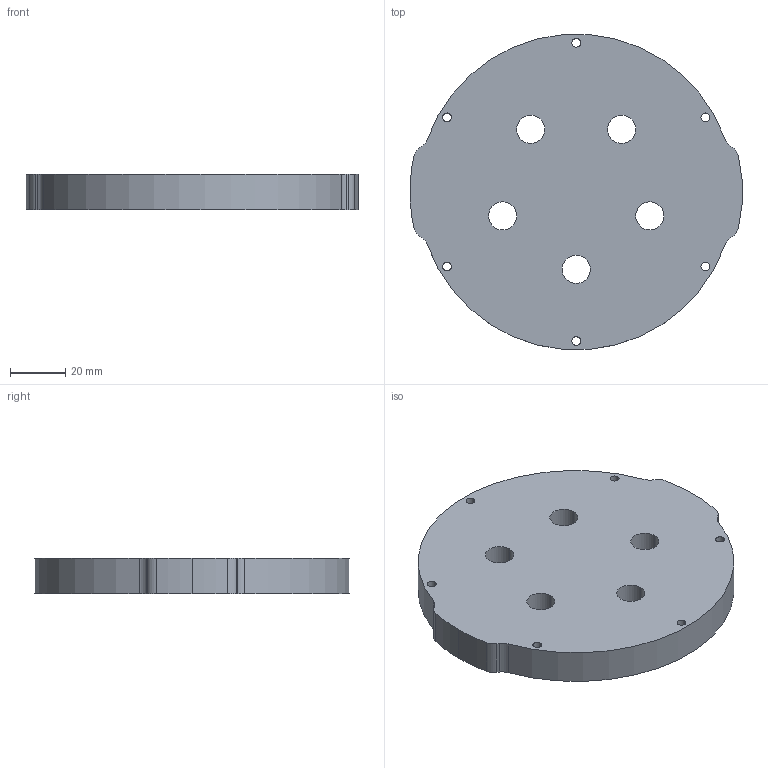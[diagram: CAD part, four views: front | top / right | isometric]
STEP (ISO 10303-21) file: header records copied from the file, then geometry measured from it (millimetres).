
FILE_DESCRIPTION (( 'STEP AP203' ), '1' );
FILE_NAME ('WTC-P-END-CAP-5X10MM-R1.STEP', '2015-07-13T02:39:49', ( 'rjehangir' ), ( '' ), 'SwSTEP 2.0', 'SolidWorks 2012', '' );
FILE_SCHEMA (( 'CONFIG_CONTROL_DESIGN' ));
Length unit declared in the file: millimetre
Products named in the file (1): WTC-P-END-CAP-5X10MM-R1
Bounding box: 120.14 x 113.92 x 12.7 mm (x, y, z)
Volume: 127009.3 mm3; surface area: 27445.8 mm2
Topology: 1 solids, 1 shells, 41 faces, 117 edges, 78 vertices
Faces by surface type: cylinder 35, plane 6
Entity records: 1502 total; most frequent: DIRECTION 271, CARTESIAN_POINT 237, ORIENTED_EDGE 234, EDGE_CURVE 117, AXIS2_PLACEMENT_3D 112, VERTEX_POINT 78, CIRCLE 70, EDGE_LOOP 63
